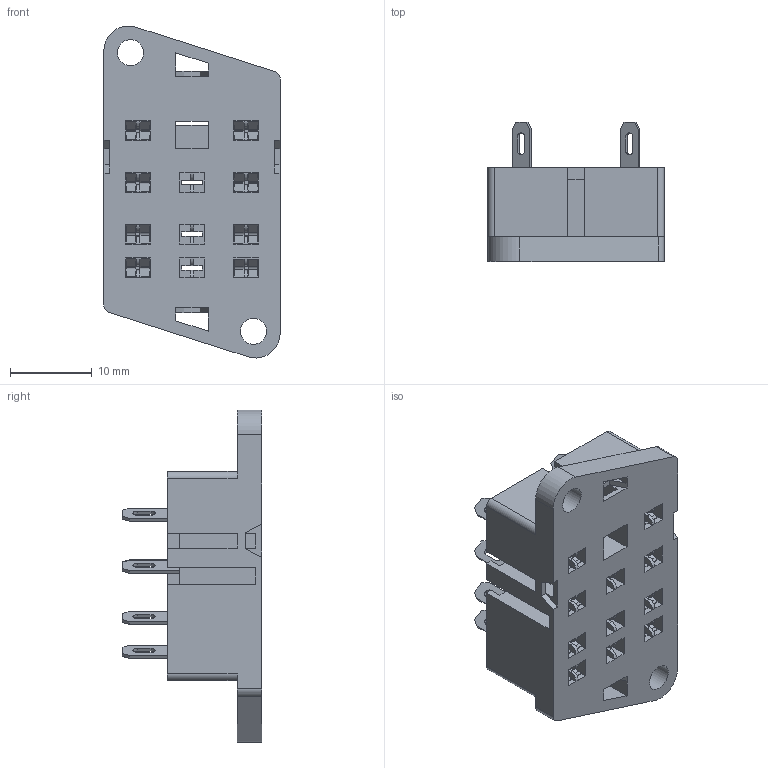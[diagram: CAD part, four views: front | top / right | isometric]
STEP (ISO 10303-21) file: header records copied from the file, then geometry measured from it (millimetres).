
FILE_DESCRIPTION(/* description */ (''),/* implementation_level */ '2;1');
FILE_NAME(/* name */ 'C:\Desktop\3D 94.32\94.32.stp',/* time_stamp */ '2016-03-07T11:57:23+01:00',/* author */ ('marco'),/* organization */ (''),/* preprocessor_version */ 'ST-DEVELOPER v16.1',/* originating_system */ 'Autodesk Inventor 2016',/* authorisation */ '');
FILE_SCHEMA (('AUTOMOTIVE_DESIGN { 1 0 10303 214 3 1 1 }'));
Length unit declared in the file: centimetre
Products named in the file (1): 94.32
Bounding box: 21.5 x 17 x 40.5 mm (x, y, z)
Volume: 5364.4 mm3; surface area: 5820 mm2
Topology: 1 solids, 1 shells, 946 faces, 2944 edges, 1912 vertices
Faces by surface type: plane 770, cylinder 176
Full cylindrical faces by diameter (mm): 3.2 x2
Entity records: 32863 total; most frequent: ORIENTED_EDGE 5884, CARTESIAN_POINT 5801, DIRECTION 5188, EDGE_CURVE 2942, LINE 2590, VECTOR 2590, VERTEX_POINT 1912, AXIS2_PLACEMENT_3D 1299
